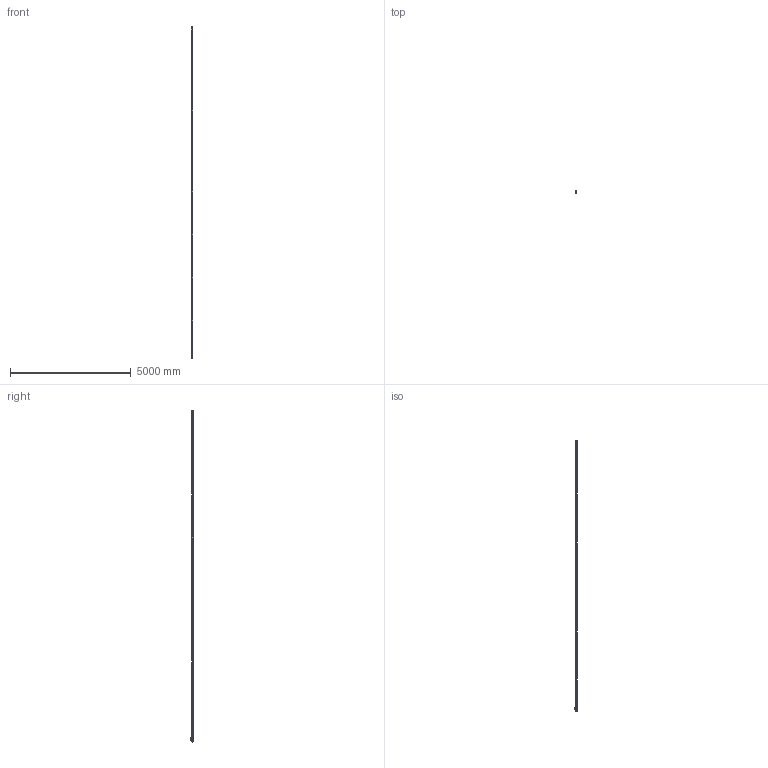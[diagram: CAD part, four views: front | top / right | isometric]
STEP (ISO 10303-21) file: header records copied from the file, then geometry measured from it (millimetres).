
FILE_DESCRIPTION(('Creo Elements/Direct Modeling STEP Export'),'2;1');
FILE_NAME('L-134.stp','2011-11-29T13:01:32',(''),(''),'Creo Elements/Direct Modeling STEP processor for AP214 (Solid Model)','Creo Elements/Direct Modeling 17.0C 05-Feb-2011 (C) Parametric Technology GmbH','');
FILE_SCHEMA(('AUTOMOTIVE_DESIGN { 1 0 10303 214 1 1 1 1 }'));
Length unit declared in the file: millimetre
Products named in the file (5): Modulos_intermedio_(FL-14); CABEZA; Modulo_der_(22-ET); Modulo_izq_(L-KT); L-134
Assembly tree (10 placements, depth 2):
  L-134
    Modulo_izq_(L-KT)
    Modulos_intermedio_(FL-14)  x7
    Modulo_der_(22-ET)
    CABEZA
Bounding box: 51.5 x 87.95 x 13749.1 mm (x, y, z)
Volume: 28677832.2 mm3; surface area: 4056794 mm2
Topology: 31 solids, 120 shells, 6699 faces, 18600 edges, 11921 vertices
Faces by surface type: cylinder 2961, plane 2600, cone 494, torus 314, bspline 224, extrusion 80, sphere 26
Entity records: 131504 total; most frequent: CARTESIAN_POINT 38524, ORIENTED_EDGE 19626, DIRECTION 17576, EDGE_CURVE 9793, VERTEX_POINT 6351, AXIS2_PLACEMENT_3D 6259, VECTOR 5058, LINE 5038
